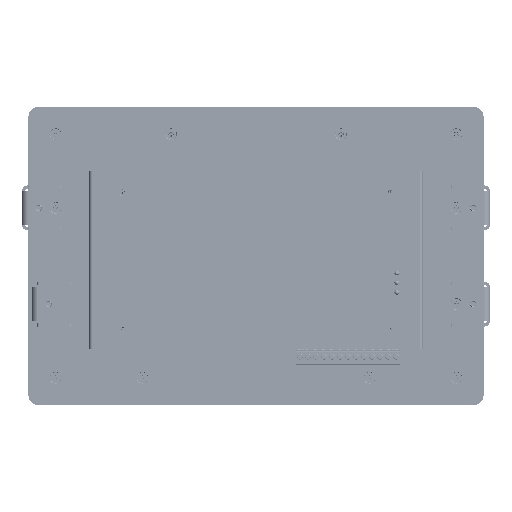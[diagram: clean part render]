
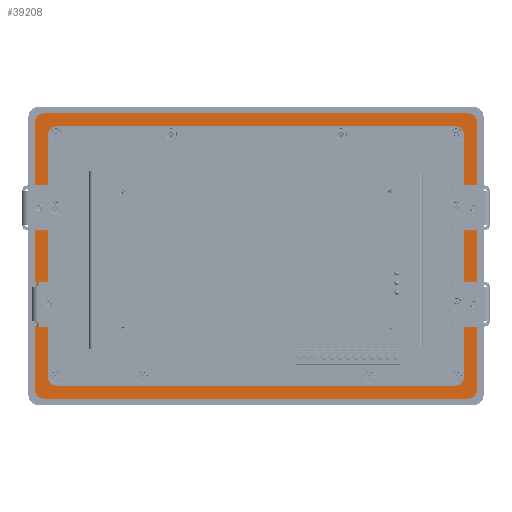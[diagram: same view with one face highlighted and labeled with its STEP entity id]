
A CAD part, left-side view. The second image highlights one B-rep face of the part: STEP entity #39208.
In plain terms, the highlighted planar face has unit normal (-1, 0, 0).
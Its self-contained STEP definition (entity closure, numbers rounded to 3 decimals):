
#39208=ADVANCED_FACE('',(#96022,#96024),#96026,.F.);
#96022=FACE_BOUND('',#96023,.T.);
#96023=EDGE_LOOP('',(#148981,#148982,#148983,#148984,#148985,#148986,#148987,#148988));
#96024=FACE_BOUND('',#96025,.T.);
#96025=EDGE_LOOP('',(#148989,#148990,#148991,#148992,#148993,#148994,#148995,#148996));
#96026=PLANE('',#96027);
#96027=AXIS2_PLACEMENT_3D('',#96028,#96029,#96030);
#96028=CARTESIAN_POINT('',(-5.,0.,0.));
#96029=DIRECTION('',(1.,0.,0.));
#96030=DIRECTION('',(0.,1.,0.));
#148981=ORIENTED_EDGE('',*,*,#180174,.F.);
#148982=ORIENTED_EDGE('',*,*,#180175,.F.);
#148983=ORIENTED_EDGE('',*,*,#180176,.F.);
#148984=ORIENTED_EDGE('',*,*,#180177,.F.);
#148985=ORIENTED_EDGE('',*,*,#180178,.F.);
#148986=ORIENTED_EDGE('',*,*,#180179,.F.);
#148987=ORIENTED_EDGE('',*,*,#180180,.F.);
#148988=ORIENTED_EDGE('',*,*,#180181,.F.);
#148989=ORIENTED_EDGE('',*,*,#179759,.T.);
#148990=ORIENTED_EDGE('',*,*,#179757,.T.);
#148991=ORIENTED_EDGE('',*,*,#179739,.T.);
#148992=ORIENTED_EDGE('',*,*,#179737,.T.);
#148993=ORIENTED_EDGE('',*,*,#179719,.T.);
#148994=ORIENTED_EDGE('',*,*,#179717,.T.);
#148995=ORIENTED_EDGE('',*,*,#179699,.T.);
#148996=ORIENTED_EDGE('',*,*,#179777,.T.);
#179699=EDGE_CURVE('',#229986,#229984,#229987,.F.);
#179717=EDGE_CURVE('',#230021,#229986,#230022,.F.);
#179719=EDGE_CURVE('',#230024,#230021,#230025,.F.);
#179737=EDGE_CURVE('',#230059,#230024,#230060,.F.);
#179739=EDGE_CURVE('',#230062,#230059,#230063,.F.);
#179757=EDGE_CURVE('',#230097,#230062,#230098,.F.);
#179759=EDGE_CURVE('',#230100,#230097,#230101,.F.);
#179777=EDGE_CURVE('',#229984,#230100,#230135,.F.);
#180174=EDGE_CURVE('',#230888,#230889,#230890,.T.);
#180175=EDGE_CURVE('',#230891,#230888,#230892,.T.);
#180176=EDGE_CURVE('',#230893,#230891,#230894,.T.);
#180177=EDGE_CURVE('',#230895,#230893,#230896,.T.);
#180178=EDGE_CURVE('',#230897,#230895,#230898,.T.);
#180179=EDGE_CURVE('',#230899,#230897,#230900,.T.);
#180180=EDGE_CURVE('',#230901,#230899,#230902,.T.);
#180181=EDGE_CURVE('',#230889,#230901,#230903,.T.);
#229984=VERTEX_POINT('',#299317);
#229986=VERTEX_POINT('',#299321);
#229987=LINE('',#299322,#299323);
#230021=VERTEX_POINT('',#299392);
#230022=CIRCLE('',#299393,6.);
#230024=VERTEX_POINT('',#299400);
#230025=LINE('',#299401,#299402);
#230059=VERTEX_POINT('',#299471);
#230060=CIRCLE('',#299472,6.);
#230062=VERTEX_POINT('',#299479);
#230063=LINE('',#299480,#299481);
#230097=VERTEX_POINT('',#299550);
#230098=CIRCLE('',#299551,6.);
#230100=VERTEX_POINT('',#299558);
#230101=LINE('',#299559,#299560);
#230135=CIRCLE('',#299629,6.);
#230888=VERTEX_POINT('',#301377);
#230889=VERTEX_POINT('',#301378);
#230890=LINE('',#301379,#301380);
#230891=VERTEX_POINT('',#301382);
#230892=CIRCLE('',#301383,6.);
#230893=VERTEX_POINT('',#301387);
#230894=LINE('',#301388,#301389);
#230895=VERTEX_POINT('',#301391);
#230896=CIRCLE('',#301392,6.);
#230897=VERTEX_POINT('',#301396);
#230898=LINE('',#301397,#301398);
#230899=VERTEX_POINT('',#301400);
#230900=CIRCLE('',#301401,6.);
#230901=VERTEX_POINT('',#301405);
#230902=LINE('',#301406,#301407);
#230903=CIRCLE('',#301409,6.);
#299317=CARTESIAN_POINT('',(-5.,124.,-81.));
#299321=CARTESIAN_POINT('',(-5.,-124.,-81.));
#299322=CARTESIAN_POINT('',(-5.,124.,-81.));
#299323=VECTOR('',#299324,1.);
#299324=DIRECTION('',(0.,-1.,0.));
#299392=CARTESIAN_POINT('',(-5.,-130.,-75.));
#299393=AXIS2_PLACEMENT_3D('',#299394,#299395,#299396);
#299394=CARTESIAN_POINT('',(-5.,-124.,-75.));
#299395=DIRECTION('',(-1.,0.,0.));
#299396=DIRECTION('',(0.,0.,-1.));
#299400=CARTESIAN_POINT('',(-5.,-130.,75.));
#299401=CARTESIAN_POINT('',(-5.,-130.,-75.));
#299402=VECTOR('',#299403,1.);
#299403=DIRECTION('',(0.,0.,1.));
#299471=CARTESIAN_POINT('',(-5.,-124.,81.));
#299472=AXIS2_PLACEMENT_3D('',#299473,#299474,#299475);
#299473=CARTESIAN_POINT('',(-5.,-124.,75.));
#299474=DIRECTION('',(-1.,0.,0.));
#299475=DIRECTION('',(0.,-1.,0.));
#299479=CARTESIAN_POINT('',(-5.,124.,81.));
#299480=CARTESIAN_POINT('',(-5.,-124.,81.));
#299481=VECTOR('',#299482,1.);
#299482=DIRECTION('',(0.,1.,0.));
#299550=CARTESIAN_POINT('',(-5.,130.,75.));
#299551=AXIS2_PLACEMENT_3D('',#299552,#299553,#299554);
#299552=CARTESIAN_POINT('',(-5.,124.,75.));
#299553=DIRECTION('',(-1.,0.,0.));
#299554=DIRECTION('',(0.,0.,1.));
#299558=CARTESIAN_POINT('',(-5.,130.,-75.));
#299559=CARTESIAN_POINT('',(-5.,130.,75.));
#299560=VECTOR('',#299561,1.);
#299561=DIRECTION('',(0.,0.,-1.));
#299629=AXIS2_PLACEMENT_3D('',#299630,#299631,#299632);
#299630=CARTESIAN_POINT('',(-5.,124.,-75.));
#299631=DIRECTION('',(-1.,0.,0.));
#299632=DIRECTION('',(0.,1.,0.));
#301377=CARTESIAN_POINT('',(-5.,132.,89.));
#301378=CARTESIAN_POINT('',(-5.,-132.,89.));
#301379=CARTESIAN_POINT('',(-5.,132.,89.));
#301380=VECTOR('',#301381,1.);
#301381=DIRECTION('',(0.,-1.,0.));
#301382=CARTESIAN_POINT('',(-5.,138.,83.));
#301383=AXIS2_PLACEMENT_3D('',#301384,#301385,#301386);
#301384=CARTESIAN_POINT('',(-5.,132.,83.));
#301385=DIRECTION('',(1.,0.,0.));
#301386=DIRECTION('',(0.,1.,0.));
#301387=CARTESIAN_POINT('',(-5.,138.,-83.));
#301388=CARTESIAN_POINT('',(-5.,138.,-83.));
#301389=VECTOR('',#301390,1.);
#301390=DIRECTION('',(0.,0.,1.));
#301391=CARTESIAN_POINT('',(-5.,132.,-89.));
#301392=AXIS2_PLACEMENT_3D('',#301393,#301394,#301395);
#301393=CARTESIAN_POINT('',(-5.,132.,-83.));
#301394=DIRECTION('',(1.,0.,0.));
#301395=DIRECTION('',(0.,0.,-1.));
#301396=CARTESIAN_POINT('',(-5.,-132.,-89.));
#301397=CARTESIAN_POINT('',(-5.,-132.,-89.));
#301398=VECTOR('',#301399,1.);
#301399=DIRECTION('',(0.,1.,0.));
#301400=CARTESIAN_POINT('',(-5.,-138.,-83.));
#301401=AXIS2_PLACEMENT_3D('',#301402,#301403,#301404);
#301402=CARTESIAN_POINT('',(-5.,-132.,-83.));
#301403=DIRECTION('',(1.,0.,0.));
#301404=DIRECTION('',(0.,-1.,0.));
#301405=CARTESIAN_POINT('',(-5.,-138.,83.));
#301406=CARTESIAN_POINT('',(-5.,-138.,83.));
#301407=VECTOR('',#301408,1.);
#301408=DIRECTION('',(0.,0.,-1.));
#301409=AXIS2_PLACEMENT_3D('',#301410,#301411,#301412);
#301410=CARTESIAN_POINT('',(-5.,-132.,83.));
#301411=DIRECTION('',(1.,0.,0.));
#301412=DIRECTION('',(0.,0.,1.));
